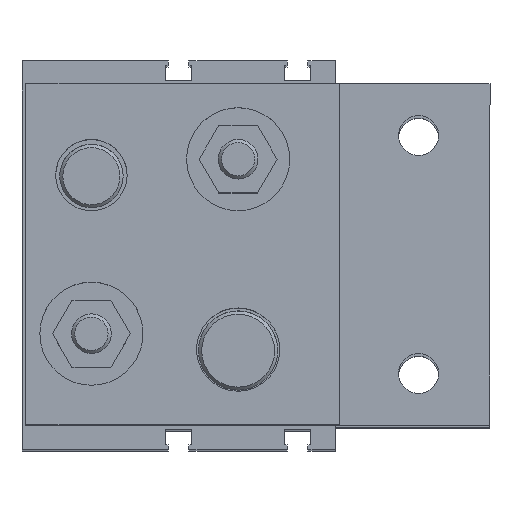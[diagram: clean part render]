
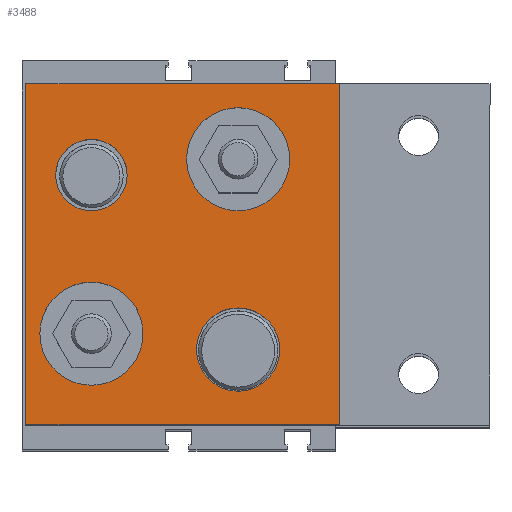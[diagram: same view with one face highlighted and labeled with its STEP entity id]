
A CAD part, top view. The second image highlights one B-rep face of the part: STEP entity #3488.
In plain terms, the highlighted planar face has unit normal (0, 0, 1) as drawn and (-1, 0, 0) by its records, which use the part's own axes.
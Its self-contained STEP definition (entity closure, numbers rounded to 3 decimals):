
#2447=CARTESIAN_POINT('',(-14.,63.5,29.5));
#2448=VERTEX_POINT('',#2447);
#2449=CARTESIAN_POINT('',(-14.,63.5,19.));
#2450=DIRECTION('',(1.0,0.0,0.0));
#2451=DIRECTION('',(0.0,0.0,1.0));
#2452=AXIS2_PLACEMENT_3D('',#2449,#2450,#2451);
#2453=CIRCLE('',#2452,10.5);
#2454=EDGE_CURVE('',#2448,#2448,#2453,.T.);
#3179=CARTESIAN_POINT('',(-14.,100.5,36.));
#3180=VERTEX_POINT('',#3179);
#3181=CARTESIAN_POINT('',(-14.,100.5,23.));
#3182=DIRECTION('',(1.0,0.0,0.0));
#3183=DIRECTION('',(0.0,0.0,1.0));
#3184=AXIS2_PLACEMENT_3D('',#3181,#3182,#3183);
#3185=CIRCLE('',#3184,13.0);
#3186=EDGE_CURVE('',#3180,#3180,#3185,.T.);
#3224=CARTESIAN_POINT('',(-14.,63.5,80.));
#3225=VERTEX_POINT('',#3224);
#3226=CARTESIAN_POINT('',(-14.,63.5,67.0));
#3227=DIRECTION('',(1.0,0.0,0.0));
#3228=DIRECTION('',(0.0,0.0,1.0));
#3229=AXIS2_PLACEMENT_3D('',#3226,#3227,#3228);
#3230=CIRCLE('',#3229,13.0);
#3231=EDGE_CURVE('',#3225,#3225,#3230,.T.);
#3255=CARTESIAN_POINT('',(-14.,100.5,72.));
#3256=VERTEX_POINT('',#3255);
#3257=CARTESIAN_POINT('',(-14.,100.5,63.));
#3258=DIRECTION('',(1.0,0.0,0.0));
#3259=DIRECTION('',(0.0,0.0,1.0));
#3260=AXIS2_PLACEMENT_3D('',#3257,#3258,#3259);
#3261=CIRCLE('',#3260,9.0);
#3262=EDGE_CURVE('',#3256,#3256,#3261,.T.);
#3272=CARTESIAN_POINT('',(-14.,117.,86.0));
#3273=VERTEX_POINT('',#3272);
#3290=CARTESIAN_POINT('',(-14.,117.,0.0));
#3291=VERTEX_POINT('',#3290);
#3298=CARTESIAN_POINT('',(-14.,117.,0.0));
#3299=DIRECTION('',(0.0,0.0,1.0));
#3300=VECTOR('',#3299,86.0);
#3301=LINE('',#3298,#3300);
#3302=EDGE_CURVE('',#3291,#3273,#3301,.T.);
#3429=CARTESIAN_POINT('',(-14.,38.,86.0));
#3430=VERTEX_POINT('',#3429);
#3437=CARTESIAN_POINT('',(-14.,38.,0.0));
#3438=VERTEX_POINT('',#3437);
#3439=CARTESIAN_POINT('',(-14.,38.,0.0));
#3440=DIRECTION('',(0.0,0.0,1.0));
#3441=VECTOR('',#3440,86.0);
#3442=LINE('',#3439,#3441);
#3443=EDGE_CURVE('',#3438,#3430,#3442,.T.);
#3455=CARTESIAN_POINT('',(-14.,38.,0.0));
#3456=DIRECTION('',(-1.0,0.0,0.0));
#3457=DIRECTION('',(0.0,0.0,1.0));
#3458=AXIS2_PLACEMENT_3D('',#3455,#3456,#3457);
#3459=PLANE('',#3458);
#3460=CARTESIAN_POINT('',(-14.,38.,86.0));
#3461=DIRECTION('',(0.0,1.0,0.0));
#3462=VECTOR('',#3461,79.0);
#3463=LINE('',#3460,#3462);
#3464=EDGE_CURVE('',#3430,#3273,#3463,.T.);
#3465=ORIENTED_EDGE('',*,*,#3464,.T.);
#3466=ORIENTED_EDGE('',*,*,#3302,.F.);
#3467=CARTESIAN_POINT('',(-14.,117.,0.0));
#3468=DIRECTION('',(0.0,-1.0,0.0));
#3469=VECTOR('',#3468,79.0);
#3470=LINE('',#3467,#3469);
#3471=EDGE_CURVE('',#3291,#3438,#3470,.T.);
#3472=ORIENTED_EDGE('',*,*,#3471,.T.);
#3473=ORIENTED_EDGE('',*,*,#3443,.T.);
#3474=EDGE_LOOP('',(#3465,#3466,#3472,#3473));
#3475=FACE_OUTER_BOUND('',#3474,.T.);
#3476=ORIENTED_EDGE('',*,*,#2454,.T.);
#3477=EDGE_LOOP('',(#3476));
#3478=FACE_BOUND('',#3477,.T.);
#3479=ORIENTED_EDGE('',*,*,#3186,.T.);
#3480=EDGE_LOOP('',(#3479));
#3481=FACE_BOUND('',#3480,.T.);
#3482=ORIENTED_EDGE('',*,*,#3231,.T.);
#3483=EDGE_LOOP('',(#3482));
#3484=FACE_BOUND('',#3483,.T.);
#3485=ORIENTED_EDGE('',*,*,#3262,.T.);
#3486=EDGE_LOOP('',(#3485));
#3487=FACE_BOUND('',#3486,.T.);
#3488=ADVANCED_FACE('',(#3475,#3478,#3481,#3484,#3487),#3459,.T.);
